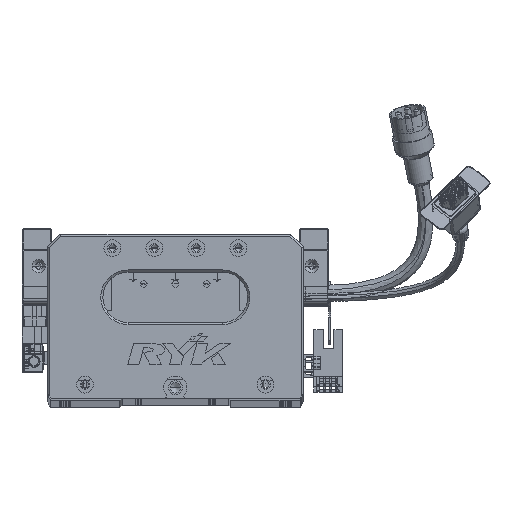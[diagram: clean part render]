
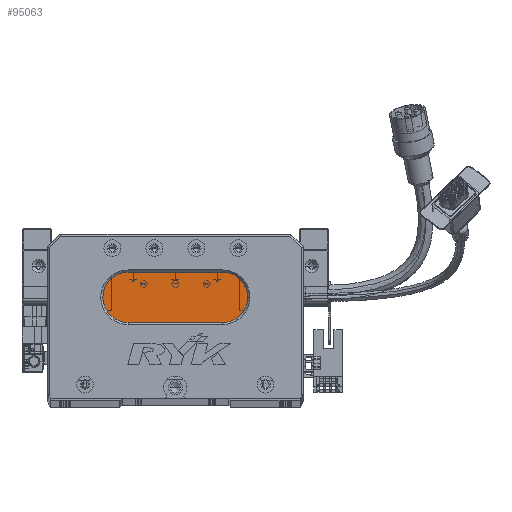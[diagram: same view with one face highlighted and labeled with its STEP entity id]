
A CAD part, top view. The second image highlights one B-rep face of the part: STEP entity #95063.
In plain terms, the highlighted planar face has unit normal (0, 0, 1) as drawn and (0, 0, -1) by its records, which use the part's own axes.
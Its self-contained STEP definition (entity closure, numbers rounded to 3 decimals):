
#1515 = CARTESIAN_POINT ( 'NONE',  ( 83.5, 48., 13. ) ) ;
#2359 = LINE ( 'NONE', #72030, #69278 ) ;
#3822 = CIRCLE ( 'NONE', #49275, 12. ) ;
#5519 = DIRECTION ( 'NONE',  ( 0., 0., -1. ) ) ;
#6253 = VERTEX_POINT ( 'NONE', #90751 ) ;
#7055 = DIRECTION ( 'NONE',  ( 0., 0., -1. ) ) ;
#7294 = CARTESIAN_POINT ( 'NONE',  ( 83.5, 60., 13. ) ) ;
#7600 = EDGE_CURVE ( 'NONE', #77876, #102035, #2359, .T. ) ;
#9848 = CARTESIAN_POINT ( 'NONE',  ( 26.5, 48., 13. ) ) ;
#16736 = ORIENTED_EDGE ( 'NONE', *, *, #43994, .T. ) ;
#19486 = CARTESIAN_POINT ( 'NONE',  ( 83.5, 36., 13. ) ) ;
#20430 = EDGE_LOOP ( 'NONE', ( #16736, #56055, #66883, #20599, #61685 ) ) ;
#20599 = ORIENTED_EDGE ( 'NONE', *, *, #43217, .T. ) ;
#20751 = CARTESIAN_POINT ( 'NONE',  ( 38.5, 48., 13. ) ) ;
#21338 = EDGE_CURVE ( 'NONE', #102035, #62384, #65720, .T. ) ;
#33956 = CIRCLE ( 'NONE', #44391, 12. ) ;
#37603 = DIRECTION ( 'NONE',  ( 0., 0., -1. ) ) ;
#39618 = DIRECTION ( 'NONE',  ( -1., 0., 0. ) ) ;
#40775 = CARTESIAN_POINT ( 'NONE',  ( 83.5, 48., 13. ) ) ;
#43217 = EDGE_CURVE ( 'NONE', #62384, #107655, #3822, .T. ) ;
#43994 = EDGE_CURVE ( 'NONE', #6253, #77876, #33956, .T. ) ;
#44391 = AXIS2_PLACEMENT_3D ( 'NONE', #40775, #7055, #48095 ) ;
#45985 = AXIS2_PLACEMENT_3D ( 'NONE', #1515, #101575, #77052 ) ;
#48095 = DIRECTION ( 'NONE',  ( -1., 0., 0. ) ) ;
#49275 = AXIS2_PLACEMENT_3D ( 'NONE', #87624, #5519, #39618 ) ;
#50267 = VECTOR ( 'NONE', #72940, 1000. ) ;
#56055 = ORIENTED_EDGE ( 'NONE', *, *, #7600, .T. ) ;
#59813 = PLANE ( 'NONE',  #45985 ) ;
#61685 = ORIENTED_EDGE ( 'NONE', *, *, #100849, .T. ) ;
#62384 = VERTEX_POINT ( 'NONE', #9848 ) ;
#62858 = DIRECTION ( 'NONE',  ( -1., 0., 0. ) ) ;
#65720 = CIRCLE ( 'NONE', #106023, 12. ) ;
#66883 = ORIENTED_EDGE ( 'NONE', *, *, #21338, .T. ) ;
#69278 = VECTOR ( 'NONE', #103866, 1000. ) ;
#72030 = CARTESIAN_POINT ( 'NONE',  ( 83.5, 36., 13. ) ) ;
#72580 = LINE ( 'NONE', #7294, #50267 ) ;
#72940 = DIRECTION ( 'NONE',  ( 1., 0., 0. ) ) ;
#77052 = DIRECTION ( 'NONE',  ( -1., 0., 0. ) ) ;
#77876 = VERTEX_POINT ( 'NONE', #19486 ) ;
#87624 = CARTESIAN_POINT ( 'NONE',  ( 38.5, 48., 13. ) ) ;
#90751 = CARTESIAN_POINT ( 'NONE',  ( 83.5, 60., 13. ) ) ;
#95063 = ADVANCED_FACE ( 'NONE', ( #97879 ), #59813, .T. ) ;
#97879 = FACE_OUTER_BOUND ( 'NONE', #20430, .T. ) ;
#100849 = EDGE_CURVE ( 'NONE', #107655, #6253, #72580, .T. ) ;
#101161 = CARTESIAN_POINT ( 'NONE',  ( 38.5, 36., 13. ) ) ;
#101575 = DIRECTION ( 'NONE',  ( 0., 0., -1. ) ) ;
#102035 = VERTEX_POINT ( 'NONE', #101161 ) ;
#103866 = DIRECTION ( 'NONE',  ( -1., 0., 0. ) ) ;
#105855 = CARTESIAN_POINT ( 'NONE',  ( 38.5, 60., 13. ) ) ;
#106023 = AXIS2_PLACEMENT_3D ( 'NONE', #20751, #37603, #62858 ) ;
#107655 = VERTEX_POINT ( 'NONE', #105855 ) ;
